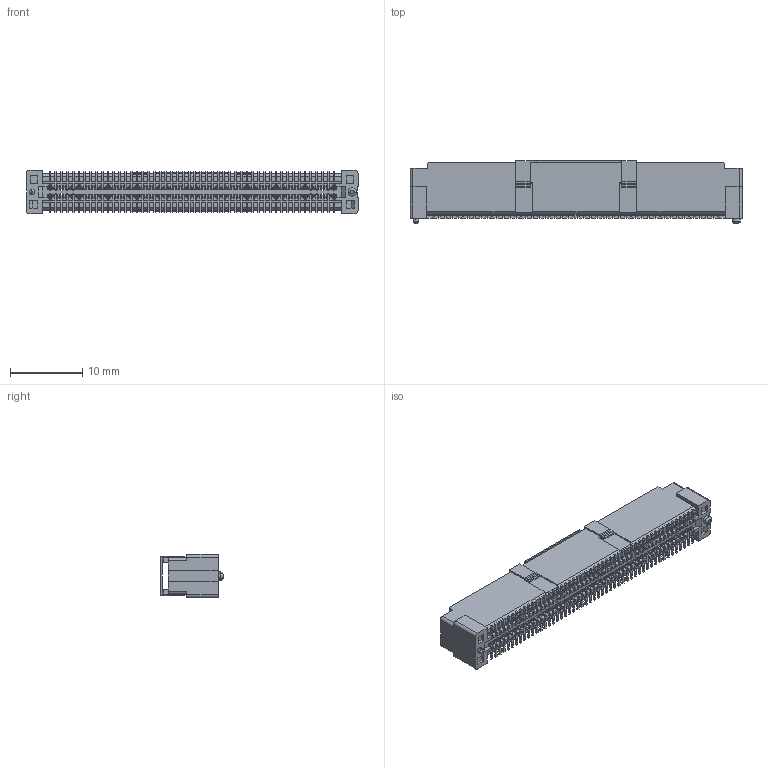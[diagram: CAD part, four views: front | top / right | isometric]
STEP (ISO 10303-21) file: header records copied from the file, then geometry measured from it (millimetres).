
FILE_DESCRIPTION (( 'STEP AP203' ), '1' );
FILE_NAME ('HC-PBB08-1-100-M-H7.7-XX-R-P-06 (BTB0.8 单槽 公座 立贴 带柱 编带+盖)-HCTL.STEP', '2025-12-22T09:23:00', ( '' ), ( '' ), 'SwSTEP 2.0', 'SolidWorks 2025', '' );
FILE_SCHEMA (( 'CONFIG_CONTROL_DESIGN' ));
Products named in the file (1): HC-PBB08-1-100-M-H7.7-XX-R-P-06 (BTB0.8 单槽 公座 立贴 带柱 编带+盖)-HCTL
Bounding box: 45.8 x 8.6 x 6 mm (x, y, z)
Volume: 1221.1 mm3; surface area: 3325.7 mm2
Topology: 2 solids, 82 shells, 5720 faces, 16774 edges, 10892 vertices
Faces by surface type: plane 4856, cylinder 842, bspline 10, cone 8, torus 4
Entity records: 188237 total; most frequent: CARTESIAN_POINT 35357, ORIENTED_EDGE 33548, DIRECTION 29476, EDGE_CURVE 16774, VECTOR 15054, LINE 15054, VERTEX_POINT 10892, AXIS2_PLACEMENT_3D 7211
